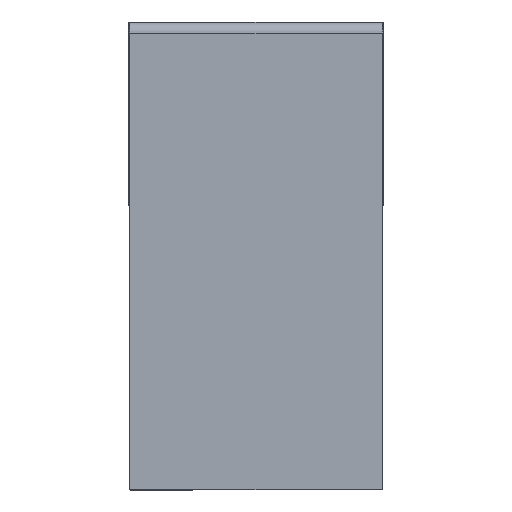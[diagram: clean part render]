
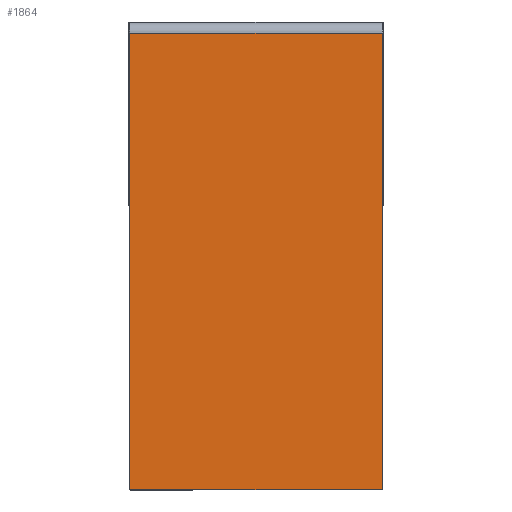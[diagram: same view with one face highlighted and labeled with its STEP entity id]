
A CAD part, top view. The second image highlights one B-rep face of the part: STEP entity #1864.
In plain terms, the highlighted planar face has unit normal (0, 0, 1).
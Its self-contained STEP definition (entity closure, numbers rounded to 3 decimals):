
#1663=CARTESIAN_POINT('',(6.,1066.97,15.));
#1664=VERTEX_POINT('',#1663);
#1694=CARTESIAN_POINT('',(6.,-4.,15.));
#1695=VERTEX_POINT('',#1694);
#1704=CARTESIAN_POINT('',(6.,1066.97,15.));
#1705=DIRECTION('',(0.0,-1.0,0.0));
#1706=VECTOR('',#1705,1070.97);
#1707=LINE('',#1704,#1706);
#1708=EDGE_CURVE('',#1664,#1695,#1707,.T.);
#1718=CARTESIAN_POINT('',(4.,-6.,15.));
#1719=VERTEX_POINT('',#1718);
#1728=CARTESIAN_POINT('',(4.,-4.,15.));
#1729=DIRECTION('',(0.,0.,-1.0));
#1730=DIRECTION('',(0.707,-0.707,0.));
#1731=AXIS2_PLACEMENT_3D('',#1728,#1729,#1730);
#1732=CIRCLE('',#1731,2.);
#1733=EDGE_CURVE('',#1695,#1719,#1732,.T.);
#1743=CARTESIAN_POINT('',(-585.,-6.,15.));
#1744=VERTEX_POINT('',#1743);
#1753=CARTESIAN_POINT('',(4.,-6.,15.));
#1754=DIRECTION('',(-1.0,0.0,0.0));
#1755=VECTOR('',#1754,589.);
#1756=LINE('',#1753,#1755);
#1757=EDGE_CURVE('',#1719,#1744,#1756,.T.);
#1767=CARTESIAN_POINT('',(-587.,-4.,15.));
#1768=VERTEX_POINT('',#1767);
#1777=CARTESIAN_POINT('',(-585.,-4.,15.));
#1778=DIRECTION('',(0.,0.,-1.0));
#1779=DIRECTION('',(-0.707,-0.707,0.));
#1780=AXIS2_PLACEMENT_3D('',#1777,#1778,#1779);
#1781=CIRCLE('',#1780,2.);
#1782=EDGE_CURVE('',#1744,#1768,#1781,.T.);
#1792=CARTESIAN_POINT('',(-587.0,1066.97,15.));
#1793=VERTEX_POINT('',#1792);
#1802=CARTESIAN_POINT('',(-587.,-4.0,15.));
#1803=DIRECTION('',(0.0,1.0,0.0));
#1804=VECTOR('',#1803,1070.97);
#1805=LINE('',#1802,#1804);
#1806=EDGE_CURVE('',#1768,#1793,#1805,.T.);
#1846=CARTESIAN_POINT('',(-290.5,711.09,15.));
#1847=DIRECTION('',(0.0,0.0,1.0));
#1848=DIRECTION('',(0.0,1.0,0.0));
#1849=AXIS2_PLACEMENT_3D('',#1846,#1847,#1848);
#1850=PLANE('',#1849);
#1851=ORIENTED_EDGE('',*,*,#1806,.F.);
#1852=ORIENTED_EDGE('',*,*,#1782,.F.);
#1853=ORIENTED_EDGE('',*,*,#1757,.F.);
#1854=ORIENTED_EDGE('',*,*,#1733,.F.);
#1855=ORIENTED_EDGE('',*,*,#1708,.F.);
#1856=CARTESIAN_POINT('',(6.,1066.97,15.));
#1857=DIRECTION('',(-1.0,0.0,0.0));
#1858=VECTOR('',#1857,593.);
#1859=LINE('',#1856,#1858);
#1860=EDGE_CURVE('',#1664,#1793,#1859,.T.);
#1861=ORIENTED_EDGE('',*,*,#1860,.T.);
#1862=EDGE_LOOP('',(#1851,#1852,#1853,#1854,#1855,#1861));
#1863=FACE_OUTER_BOUND('',#1862,.T.);
#1864=ADVANCED_FACE('',(#1863),#1850,.T.);
